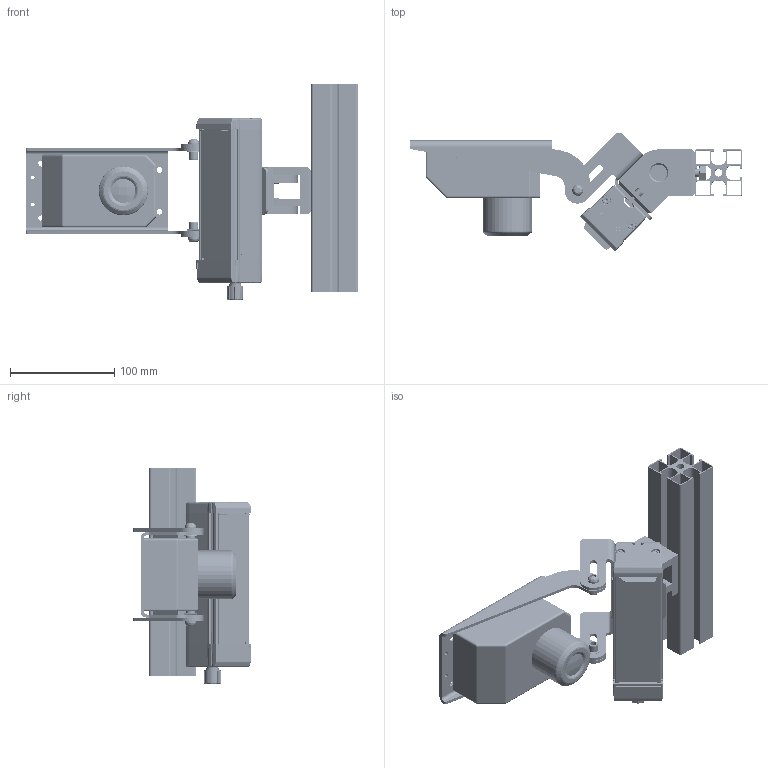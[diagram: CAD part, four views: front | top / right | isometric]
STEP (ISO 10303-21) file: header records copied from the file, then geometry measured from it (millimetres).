
FILE_DESCRIPTION (( 'STEP AP214' ), '1' );
FILE_NAME ('TPLMOUNT-BAR-H1-UPDATED.STEP', '2020-11-10T09:57:31', ( '' ), ( '' ), 'SwSTEP 2.0', 'SolidWorks 2020', '' );
FILE_SCHEMA (( 'AUTOMOTIVE_DESIGN' ));
Length unit declared in the file: millimetre
Products named in the file (86): Copie de LENTILLE___OLDER_10__LED_XPE_AN_ASM^Copie de 000334_ASM_Copie de CIRCUIT-LED-125-GENERIQUE_ASM_EBAR_1; Copie de 012033_ASM^EBAR; Copie de 000132_ASM^Copie de CIRCUIT-LED-125-GENERIQUE_ASM_EBAR_1; VIS CHC M8X12; Copie de 000334_ASM^Copie de CIRCUIT-LED-125-GENERIQUE_ASM_EBAR_1; EBAR_1; Copie de 1457526^Copie de 011841_ASM_EBAR_1; Copie de 011838^EBAR_1; Articulation 45x45_Position_1_1; Copie de OLDER_LENTILLE_XPE_ANY^Copie de LENTILLE___OLDER_10__LED_XPE_AN_ASM_Copie de 000334_ASM_Copie de CIRCUIT-LED-125-GENERIQUE_ASM_EBAR_1; Copie de 011995_ASM^EBAR_1; ACC-01-001; Copie de A14054026^Copie de 011996_ASM_Copie de CIRCUIT-LED-125-GENERIQUE_ASM_EBAR_1; Copie de 011831-01^Copie de 011831_ASM_EBAR_1; Copie de 012065^EBAR_1; Copie de LED_XPE_ANY_ASM^Copie de LENTILLE___OLDER_10__LED_XPE_AN_ASM_Copie de 000334_ASM_Copie de CIRCUIT-LED-125-GENERIQUE_ASM_EBAR_1; 45x45 rainuré_1; Copie de 011996_ASM^Copie de CIRCUIT-LED-125-GENERIQUE_ASM_EBAR_1; Copie de 011848^EBAR_1; Copie de 103-22-F-D-VS_HORIZ^Copie de 011996_ASM_Copie de CIRCUIT-LED-125-GENERIQUE_ASM_EBAR_1; GOUP_D4X14_A2; Copie de 012062_AF0^Copie de 012033_ASM_EBAR_1; Copie de 011828^EBAR_1; Copie de 012035_ASM^EBAR_1; Copie de 011998^Copie de CIRCUIT-LED-125-GENERIQUE_ASM_EBAR_1; Copie de POLARISANT_GENERIQUE^EBAR_1; Copie de CIRCUIT-LED-125-GENERIQUE_ASM^EBAR_1; Vis CHC M3x12_Vis CHC M 4-12; 016504_1; Copie de 012061_AF0^Copie de 012032_ASM_EBAR_1; Copie de 012060_AF0^Copie de 012030_ASM_EBAR_1; Copie de 011829^EBAR_1; Copie de 003216^Copie de CIRCUIT-LED-125-GENERIQUE_ASM_EBAR_1; Copie de SUPPORT_ANY^Copie de 000132_ASM_Copie de CIRCUIT-LED-125-GENERIQUE_ASM_EBAR_1; Copie de 012030_ASM^EBAR; Copie de TSM-103-02-F-SH^Copie de 011996_ASM_Copie de CIRCUIT-LED-125-GENERIQUE_ASM_EBAR_1; Vis FHC_DIN7991 M8x16; Copie de 011798_AF0^Copie de 011993_ASM_EBAR_1; Copie de LENTILLE_10__XPE_ANY^Copie de LENTILLE___OLDER_10__LED_XPE_AN_ASM_Copie de 000334_ASM_Copie de CIRCUIT-LED-125-GENERIQUE_ASM_EBAR_1; ECROU_HU_DIN934_ECROU_HU_M08_A2_1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
Assembly tree (134 placements, depth 8):
  TPLMOUNT-BAR-H1-UPDATED
    TPLMOUNT-BAR-H11
      EBAR_1
        Copie de 011831_ASM^EBAR_1
          Copie de 011831-01^Copie de 011831_ASM_EBAR_1
          Copie de 011922^Copie de 011831_ASM_EBAR_1
        Copie de 011993_ASM^EBAR_1
          Copie de 011798_AF0^Copie de 011993_ASM_EBAR_1
        Copie de 011829^EBAR_1
        Copie de 011841_ASM^EBAR_1
          Copie de 011841-01^Copie de 011841_ASM_EBAR_1
          Copie de 1457526^Copie de 011841_ASM_EBAR_1
          Copie de SSM-103-X-DV^Copie de 011841_ASM_EBAR_1  x2
          Copie de LED_1^Copie de 011841_ASM_EBAR_1  x2
        Copie de 011848^EBAR_1  x2
        Copie de 011830^EBAR_1
        Copie de 011994^EBAR_1
        Copie de 011995_ASM^EBAR_1
          Copie de 012058_AF0^Copie de 011995_ASM_EBAR_1
        Copie de 012035_ASM^EBAR_1
          Copie de 012059_AF0^Copie de 012035_ASM_EBAR_1
        Copie de CIRCUIT-LED-125-GENERIQUE_ASM^EBAR_1
          Copie de 011996_ASM^Copie de CIRCUIT-LED-125-GENERIQUE_ASM_EBAR_1
            Copie de A14054026^Copie de 011996_ASM_Copie de CIRCUIT-LED-125-GENERIQUE_ASM_EBAR_1
            Copie de TSM-103-02-F-SH^Copie de 011996_ASM_Copie de CIRCUIT-LED-125-GENERIQUE_ASM_EBAR_1  x2
            Copie de 103-22-F-D-VS_HORIZ^Copie de 011996_ASM_Copie de CIRCUIT-LED-125-GENERIQUE_ASM_EBAR_1  x2
          Copie de 000132_ASM^Copie de CIRCUIT-LED-125-GENERIQUE_ASM_EBAR_1
            Copie de SUPPORT_ANY^Copie de 000132_ASM_Copie de CIRCUIT-LED-125-GENERIQUE_ASM_EBAR_1
            Copie de CAPSULE_ANY^Copie de 000132_ASM_Copie de CIRCUIT-LED-125-GENERIQUE_ASM_EBAR_1
          Copie de 000132_ASM^Copie de CIRCUIT-LED-125-GENERIQUE_ASM_EBAR_1
            Copie de SUPPORT_ANY^Copie de 000132_ASM_Copie de CIRCUIT-LED-125-GENERIQUE_ASM_EBAR_1
            Copie de CAPSULE_ANY^Copie de 000132_ASM_Copie de CIRCUIT-LED-125-GENERIQUE_ASM_EBAR_1
          Copie de 000132_ASM^Copie de CIRCUIT-LED-125-GENERIQUE_ASM_EBAR_1
            Copie de SUPPORT_ANY^Copie de 000132_ASM_Copie de CIRCUIT-LED-125-GENERIQUE_ASM_EBAR_1
            Copie de CAPSULE_ANY^Copie de 000132_ASM_Copie de CIRCUIT-LED-125-GENERIQUE_ASM_EBAR_1
          Copie de 000132_ASM^Copie de CIRCUIT-LED-125-GENERIQUE_ASM_EBAR_1
            Copie de SUPPORT_ANY^Copie de 000132_ASM_Copie de CIRCUIT-LED-125-GENERIQUE_ASM_EBAR_1
            Copie de CAPSULE_ANY^Copie de 000132_ASM_Copie de CIRCUIT-LED-125-GENERIQUE_ASM_EBAR_1
          Copie de 000132_ASM^Copie de CIRCUIT-LED-125-GENERIQUE_ASM_EBAR_1
            Copie de SUPPORT_ANY^Copie de 000132_ASM_Copie de CIRCUIT-LED-125-GENERIQUE_ASM_EBAR_1
            Copie de CAPSULE_ANY^Copie de 000132_ASM_Copie de CIRCUIT-LED-125-GENERIQUE_ASM_EBAR_1
          Copie de 003216^Copie de CIRCUIT-LED-125-GENERIQUE_ASM_EBAR_1  x5
          Copie de 000334_ASM^Copie de CIRCUIT-LED-125-GENERIQUE_ASM_EBAR_1
            Copie de LENTILLE___OLDER_10__LED_XPE_AN_ASM^Copie de 000334_ASM_Copie de CIRCUIT-LED-125-GENERIQUE_ASM_EBAR_1
              Copie de LENTILLE_10__XPE_ANY^Copie de LENTILLE___OLDER_10__LED_XPE_AN_ASM_Copie de 000334_ASM_Copie de CIRCUIT-LED-125-GENERIQUE_ASM_EBAR_1
              Copie de OLDER_LENTILLE_XPE_ANY^Copie de LENTILLE___OLDER_10__LED_XPE_AN_ASM_Copie de 000334_ASM_Copie de CIRCUIT-LED-125-GENERIQUE_ASM_EBAR_1
              Copie de LED_XPE_ANY_ASM^Copie de LENTILLE___OLDER_10__LED_XPE_AN_ASM_Copie de 000334_ASM_Copie de CIRCUIT-LED-125-GENERIQUE_ASM_EBAR_1
                Copie de CONG_1^Copie de LED_XPE_ANY_ASM_Copie de LENTILLE___OLDER_10__LED_XPE_AN_ASM_Copie de 000334_ASM_Copie de CIRCUIT-LED-125-GENERIQUE_ASM_EBAR_1
                Copie de EXTRUSION3^Copie de LED_XPE_ANY_ASM_Copie de LENTILLE___OLDER_10__LED_XPE_AN_ASM_Copie de 000334_ASM_Copie de CIRCUIT-LED-125-GENERIQUE_ASM_EBAR_1
              Copie de LED_660_NM_ANY^Copie de LENTILLE___OLDER_10__LED_XPE_AN_ASM_Copie de 000334_ASM_Copie de CIRCUIT-LED-125-GENERIQUE_ASM_EBAR_1
          Copie de 000334_ASM^Copie de CIRCUIT-LED-125-GENERIQUE_ASM_EBAR_1
            Copie de LENTILLE___OLDER_10__LED_XPE_AN_ASM^Copie de 000334_ASM_Copie de CIRCUIT-LED-125-GENERIQUE_ASM_EBAR_1
              Copie de LENTILLE_10__XPE_ANY^Copie de LENTILLE___OLDER_10__LED_XPE_AN_ASM_Copie de 000334_ASM_Copie de CIRCUIT-LED-125-GENERIQUE_ASM_EBAR_1
              Copie de OLDER_LENTILLE_XPE_ANY^Copie de LENTILLE___OLDER_10__LED_XPE_AN_ASM_Copie de 000334_ASM_Copie de CIRCUIT-LED-125-GENERIQUE_ASM_EBAR_1
              Copie de LED_XPE_ANY_ASM^Copie de LENTILLE___OLDER_10__LED_XPE_AN_ASM_Copie de 000334_ASM_Copie de CIRCUIT-LED-125-GENERIQUE_ASM_EBAR_1
                Copie de CONG_1^Copie de LED_XPE_ANY_ASM_Copie de LENTILLE___OLDER_10__LED_XPE_AN_ASM_Copie de 000334_ASM_Copie de CIRCUIT-LED-125-GENERIQUE_ASM_EBAR_1
                Copie de EXTRUSION3^Copie de LED_XPE_ANY_ASM_Copie de LENTILLE___OLDER_10__LED_XPE_AN_ASM_Copie de 000334_ASM_Copie de CIRCUIT-LED-125-GENERIQUE_ASM_EBAR_1
              Copie de LED_660_NM_ANY^Copie de LENTILLE___OLDER_10__LED_XPE_AN_ASM_Copie de 000334_ASM_Copie de CIRCUIT-LED-125-GENERIQUE_ASM_EBAR_1
          Copie de 000334_ASM^Copie de CIRCUIT-LED-125-GENERIQUE_ASM_EBAR_1
            Copie de LENTILLE___OLDER_10__LED_XPE_AN_ASM^Copie de 000334_ASM_Copie de CIRCUIT-LED-125-GENERIQUE_ASM_EBAR_1
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Bounding box: 318.78 x 113.85 x 207.17 mm (x, y, z)
Volume: 936957.3 mm3; surface area: 466232.8 mm2
Topology: 107 solids, 108 shells, 7669 faces, 19159 edges, 11805 vertices
Faces by surface type: plane 2831, cylinder 2211, bspline 1368, torus 579, cone 532, sphere 148
Entity records: 281505 total; most frequent: CARTESIAN_POINT 101931, ORIENTED_EDGE 27200, DIRECTION 21691, EDGE_CURVE 13600, VERTEX_POINT 8367, AXIS2_PLACEMENT_3D 8027, EDGE_LOOP 5817, VECTOR 5637
